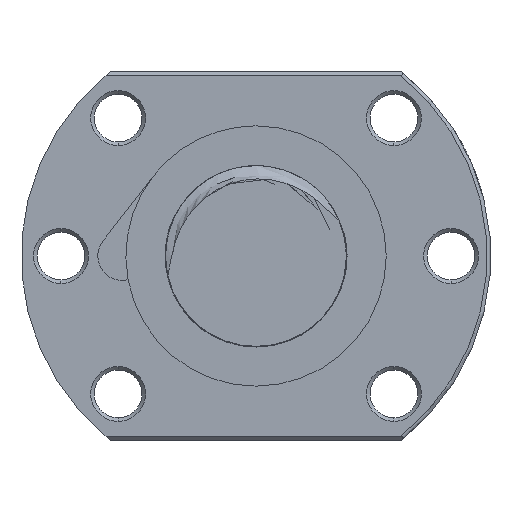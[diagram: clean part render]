
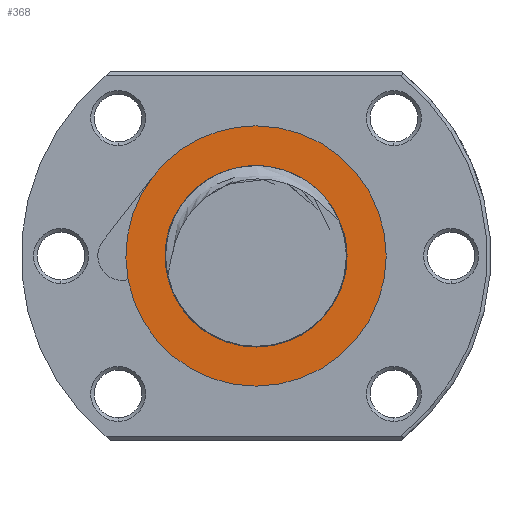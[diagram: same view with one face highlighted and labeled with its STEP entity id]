
A CAD part, left-side view. The second image highlights one B-rep face of the part: STEP entity #368.
In plain terms, the highlighted planar face has unit normal (-1, 0, 0).
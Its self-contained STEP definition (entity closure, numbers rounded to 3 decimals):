
#59 = ORIENTED_EDGE ( 'NONE', *, *, #2006, .T. ) ;
#64 = ORIENTED_EDGE ( 'NONE', *, *, #2117, .T. ) ;
#368 = ADVANCED_FACE ( 'NONE', ( #24735, #24734 ), #24733, .T. ) ;
#369 = ORIENTED_EDGE ( 'NONE', *, *, #538, .F. ) ;
#396 = ORIENTED_EDGE ( 'NONE', *, *, #397, .F. ) ;
#397 = EDGE_CURVE ( 'NONE', #2341, #536, #24681, .T. ) ;
#398 = ORIENTED_EDGE ( 'NONE', *, *, #2346, .F. ) ;
#399 = EDGE_LOOP ( 'NONE', ( #400, #402, #59, #64 ) ) ;
#400 = ORIENTED_EDGE ( 'NONE', *, *, #401, .T. ) ;
#401 = EDGE_CURVE ( 'NONE', #2119, #1751, #24628, .T. ) ;
#402 = ORIENTED_EDGE ( 'NONE', *, *, #1748, .T. ) ;
#536 = VERTEX_POINT ( 'NONE', #26101 ) ;
#538 = EDGE_CURVE ( 'NONE', #536, #2344, #26077, .T. ) ;
#545 = EDGE_LOOP ( 'NONE', ( #369, #396, #398 ) ) ;
#1748 = EDGE_CURVE ( 'NONE', #1751, #2008, #14657, .T. ) ;
#1751 = VERTEX_POINT ( 'NONE', #14644 ) ;
#2006 = EDGE_CURVE ( 'NONE', #2008, #2010, #15672, .T. ) ;
#2008 = VERTEX_POINT ( 'NONE', #15652 ) ;
#2010 = VERTEX_POINT ( 'NONE', #15651 ) ;
#2117 = EDGE_CURVE ( 'NONE', #2010, #2119, #17955, .T. ) ;
#2119 = VERTEX_POINT ( 'NONE', #17947 ) ;
#2341 = VERTEX_POINT ( 'NONE', #19044 ) ;
#2344 = VERTEX_POINT ( 'NONE', #19024 ) ;
#2346 = EDGE_CURVE ( 'NONE', #2344, #2341, #19019, .T. ) ;
#14644 = CARTESIAN_POINT ( 'NONE',  ( -127.8, 17.717, -3.285 ) ) ;
#14649 = DIRECTION ( 'NONE',  ( 0., 0., 1. ) ) ;
#14652 = DIRECTION ( 'NONE',  ( -1., 0., 0. ) ) ;
#14655 = AXIS2_PLACEMENT_3D ( 'NONE', #14675, #14652, #14649 ) ;
#14657 = CIRCLE ( 'NONE', #14655, 18.019 ) ;
#14675 = CARTESIAN_POINT ( 'NONE',  ( -127.8, 0., 0. ) ) ;
#15651 = CARTESIAN_POINT ( 'NONE',  ( -127.8, 0., 18.019 ) ) ;
#15652 = CARTESIAN_POINT ( 'NONE',  ( -127.8, 0., -18.019 ) ) ;
#15653 = DIRECTION ( 'NONE',  ( 0., 0., 1. ) ) ;
#15655 = DIRECTION ( 'NONE',  ( -1., 0., 0. ) ) ;
#15657 = CARTESIAN_POINT ( 'NONE',  ( -127.8, 0., 0. ) ) ;
#15659 = AXIS2_PLACEMENT_3D ( 'NONE', #15657, #15655, #15653 ) ;
#15672 = CIRCLE ( 'NONE', #15659, 18.019 ) ;
#17947 = CARTESIAN_POINT ( 'NONE',  ( -127.8, 14.243, 11.038 ) ) ;
#17949 = DIRECTION ( 'NONE',  ( 0., 0., 1. ) ) ;
#17951 = DIRECTION ( 'NONE',  ( -1., 0., 0. ) ) ;
#17953 = AXIS2_PLACEMENT_3D ( 'NONE', #18524, #17951, #17949 ) ;
#17955 = CIRCLE ( 'NONE', #17953, 18.019 ) ;
#18524 = CARTESIAN_POINT ( 'NONE',  ( -127.8, 0., 0. ) ) ;
#18829 = DIRECTION ( 'NONE',  ( 0., 0., 1. ) ) ;
#19014 = DIRECTION ( 'NONE',  ( -1., 0., 0. ) ) ;
#19015 = CARTESIAN_POINT ( 'NONE',  ( -127.8, 0., 0. ) ) ;
#19017 = AXIS2_PLACEMENT_3D ( 'NONE', #19015, #19014, #18829 ) ;
#19019 = CIRCLE ( 'NONE', #19017, 12.6 ) ;
#19024 = CARTESIAN_POINT ( 'NONE',  ( -127.8, 0., -12.6 ) ) ;
#19044 = CARTESIAN_POINT ( 'NONE',  ( -127.8, -12.133, 3.399 ) ) ;
#24625 = DIRECTION ( 'NONE',  ( 0., 0., 1. ) ) ;
#24626 = DIRECTION ( 'NONE',  ( -1., 0., 0. ) ) ;
#24627 = AXIS2_PLACEMENT_3D ( 'NONE', #24682, #24626, #24625 ) ;
#24628 = CIRCLE ( 'NONE', #24627, 18.019 ) ;
#24630 = CARTESIAN_POINT ( 'NONE',  ( -127.8, 12.532, -1.306 ) ) ;
#24631 = CARTESIAN_POINT ( 'NONE',  ( -127.8, 12.443, -1.156 ) ) ;
#24632 = CARTESIAN_POINT ( 'NONE',  ( -127.8, 12.377, -0.992 ) ) ;
#24633 = CARTESIAN_POINT ( 'NONE',  ( -127.8, 12.255, -0.663 ) ) ;
#24634 = CARTESIAN_POINT ( 'NONE',  ( -127.8, 12.201, -0.497 ) ) ;
#24635 = CARTESIAN_POINT ( 'NONE',  ( -127.8, 12.044, 0.005 ) ) ;
#24636 = CARTESIAN_POINT ( 'NONE',  ( -127.8, 11.947, 0.342 ) ) ;
#24637 = CARTESIAN_POINT ( 'NONE',  ( -127.8, 11.638, 1.347 ) ) ;
#24638 = CARTESIAN_POINT ( 'NONE',  ( -127.8, 11.411, 2.013 ) ) ;
#24639 = CARTESIAN_POINT ( 'NONE',  ( -127.8, 10.874, 3.302 ) ) ;
#24640 = CARTESIAN_POINT ( 'NONE',  ( -127.8, 10.567, 3.926 ) ) ;
#24643 = CARTESIAN_POINT ( 'NONE',  ( -127.8, 10.035, 4.825 ) ) ;
#24644 = CARTESIAN_POINT ( 'NONE',  ( -127.8, 9.846, 5.118 ) ) ;
#24645 = CARTESIAN_POINT ( 'NONE',  ( -127.8, 9.444, 5.692 ) ) ;
#24646 = CARTESIAN_POINT ( 'NONE',  ( -127.8, 9.23, 5.972 ) ) ;
#24647 = CARTESIAN_POINT ( 'NONE',  ( -127.8, 8.562, 6.778 ) ) ;
#24648 = CARTESIAN_POINT ( 'NONE',  ( -127.8, 8.077, 7.275 ) ) ;
#24649 = CARTESIAN_POINT ( 'NONE',  ( -127.8, 7.287, 7.957 ) ) ;
#24650 = CARTESIAN_POINT ( 'NONE',  ( -127.8, 7.013, 8.174 ) ) ;
#24651 = CARTESIAN_POINT ( 'NONE',  ( -127.8, 6.444, 8.586 ) ) ;
#24652 = CARTESIAN_POINT ( 'NONE',  ( -127.8, 6.151, 8.779 ) ) ;
#24653 = CARTESIAN_POINT ( 'NONE',  ( -127.8, 5.254, 9.316 ) ) ;
#24654 = CARTESIAN_POINT ( 'NONE',  ( -127.8, 4.63, 9.619 ) ) ;
#24655 = CARTESIAN_POINT ( 'NONE',  ( -127.8, 3.328, 10.115 ) ) ;
#24656 = CARTESIAN_POINT ( 'NONE',  ( -127.8, 2.646, 10.307 ) ) ;
#24657 = CARTESIAN_POINT ( 'NONE',  ( -127.8, 1.28, 10.565 ) ) ;
#24659 = CARTESIAN_POINT ( 'NONE',  ( -127.8, 0.59, 10.632 ) ) ;
#24660 = CARTESIAN_POINT ( 'NONE',  ( -127.8, -0.454, 10.643 ) ) ;
#24661 = CARTESIAN_POINT ( 'NONE',  ( -127.8, -0.805, 10.63 ) ) ;
#24662 = CARTESIAN_POINT ( 'NONE',  ( -127.8, -1.505, 10.575 ) ) ;
#24663 = CARTESIAN_POINT ( 'NONE',  ( -127.8, -1.851, 10.532 ) ) ;
#24664 = CARTESIAN_POINT ( 'NONE',  ( -127.8, -2.877, 10.36 ) ) ;
#24665 = CARTESIAN_POINT ( 'NONE',  ( -127.8, -3.545, 10.187 ) ) ;
#24666 = CARTESIAN_POINT ( 'NONE',  ( -127.8, -4.524, 9.844 ) ) ;
#24667 = CARTESIAN_POINT ( 'NONE',  ( -127.8, -4.846, 9.715 ) ) ;
#24668 = CARTESIAN_POINT ( 'NONE',  ( -127.8, -5.483, 9.43 ) ) ;
#24669 = CARTESIAN_POINT ( 'NONE',  ( -127.8, -5.799, 9.272 ) ) ;
#24670 = CARTESIAN_POINT ( 'NONE',  ( -127.8, -7.328, 8.429 ) ) ;
#24671 = CARTESIAN_POINT ( 'NONE',  ( -127.8, -8.412, 7.571 ) ) ;
#24672 = CARTESIAN_POINT ( 'NONE',  ( -127.8, -9.873, 6.068 ) ) ;
#24673 = CARTESIAN_POINT ( 'NONE',  ( -127.8, -10.328, 5.532 ) ) ;
#24674 = CARTESIAN_POINT ( 'NONE',  ( -127.8, -10.984, 4.713 ) ) ;
#24675 = CARTESIAN_POINT ( 'NONE',  ( -127.8, -11.198, 4.436 ) ) ;
#24676 = CARTESIAN_POINT ( 'NONE',  ( -127.8, -11.529, 4.028 ) ) ;
#24677 = CARTESIAN_POINT ( 'NONE',  ( -127.8, -11.64, 3.893 ) ) ;
#24678 = CARTESIAN_POINT ( 'NONE',  ( -127.8, -11.874, 3.633 ) ) ;
#24679 = CARTESIAN_POINT ( 'NONE',  ( -127.8, -11.994, 3.507 ) ) ;
#24680 = CARTESIAN_POINT ( 'NONE',  ( -127.8, -12.133, 3.399 ) ) ;
#24681 = B_SPLINE_CURVE_WITH_KNOTS ( 'NONE', 3,
 ( #24680, #24679, #24678, #24677, #24676, #24675, #24674, #24673, #24672, #24671, #24670, #24669, #24668, #24667, #24666, #24665, #24664, #24663, #24662, #24661, #24660, #24659, #24657, #24656, #24655, #24654, #24653, #24652, #24651, #24650, #24649, #24648, #24647, #24646, #24645, #24644, #24643, #24640, #24639, #24638, #24637, #24636, #24635, #24634, #24633, #24632, #24631, #24630 ),
 .UNSPECIFIED., .F., .F.,
 ( 4, 2, 2, 2, 2, 2, 2, 2, 2, 2, 2, 2, 2, 2, 2, 2, 2, 2, 2, 2, 2, 2, 2, 4 ),
 ( 0.047, 0.048, 0.048, 0.049, 0.051, 0.055, 0.057, 0.058, 0.06, 0.061, 0.062, 0.064, 0.066, 0.068, 0.069, 0.07, 0.072, 0.073, 0.074, 0.077, 0.079, 0.08, 0.08, 0.081 ),
 .UNSPECIFIED. ) ;
#24682 = CARTESIAN_POINT ( 'NONE',  ( -127.8, 0., 0. ) ) ;
#24729 = DIRECTION ( 'NONE',  ( 0., 0., 1. ) ) ;
#24730 = DIRECTION ( 'NONE',  ( -1., 0., 0. ) ) ;
#24731 = CARTESIAN_POINT ( 'NONE',  ( -127.8, 0., 12.6 ) ) ;
#24732 = AXIS2_PLACEMENT_3D ( 'NONE', #24731, #24730, #24729 ) ;
#24733 = PLANE ( 'NONE',  #24732 ) ;
#24734 = FACE_OUTER_BOUND ( 'NONE', #399, .T. ) ;
#24735 = FACE_BOUND ( 'NONE', #545, .T. ) ;
#26074 = DIRECTION ( 'NONE',  ( 0., 0., 1. ) ) ;
#26075 = DIRECTION ( 'NONE',  ( -1., 0., 0. ) ) ;
#26076 = AXIS2_PLACEMENT_3D ( 'NONE', #26103, #26075, #26074 ) ;
#26077 = CIRCLE ( 'NONE', #26076, 12.6 ) ;
#26101 = CARTESIAN_POINT ( 'NONE',  ( -127.8, 12.532, -1.306 ) ) ;
#26103 = CARTESIAN_POINT ( 'NONE',  ( -127.8, 0., 0. ) ) ;
